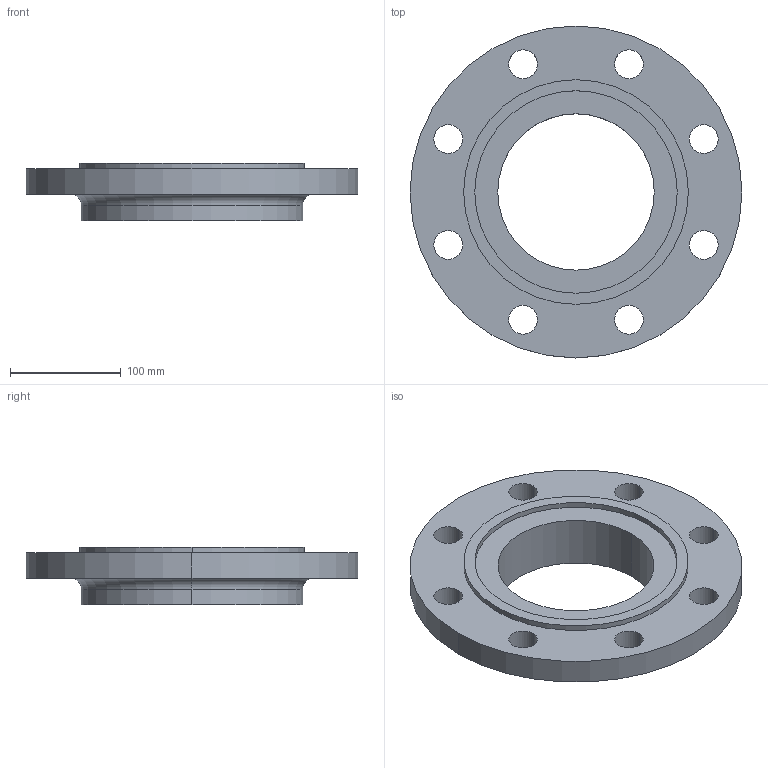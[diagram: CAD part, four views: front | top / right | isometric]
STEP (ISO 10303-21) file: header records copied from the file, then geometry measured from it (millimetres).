
FILE_DESCRIPTION (( 'STEP AP214' ), '1' );
FILE_NAME ('PN40 DN150 Type 13 - Type C Face.STEP', '2019-01-04T21:57:45', ( '' ), ( '' ), 'SwSTEP 2.0', 'SolidWorks 2019', '' );
FILE_SCHEMA (( 'AUTOMOTIVE_DESIGN' ));
Length unit declared in the file: millimetre
Products named in the file (1): PN40 DN150 Type 13 - Type C Face
Bounding box: 300 x 300 x 52 mm (x, y, z)
Volume: 1588741.8 mm3; surface area: 177563.6 mm2
Topology: 1 solids, 1 shells, 33 faces, 82 edges, 54 vertices
Faces by surface type: cylinder 26, plane 5, torus 2
Entity records: 1086 total; most frequent: DIRECTION 206, CARTESIAN_POINT 170, ORIENTED_EDGE 164, AXIS2_PLACEMENT_3D 90, EDGE_CURVE 82, CIRCLE 56, VERTEX_POINT 54, EDGE_LOOP 54
